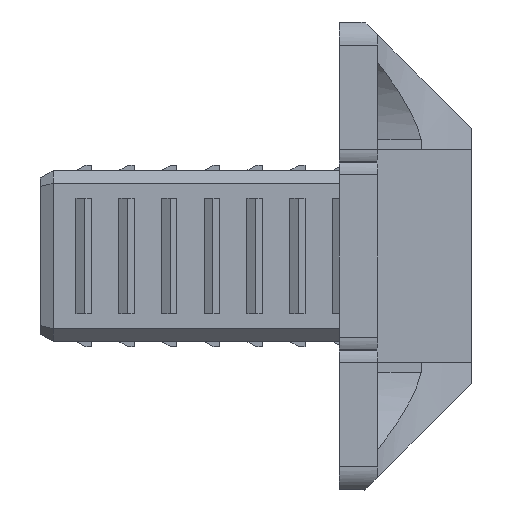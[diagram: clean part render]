
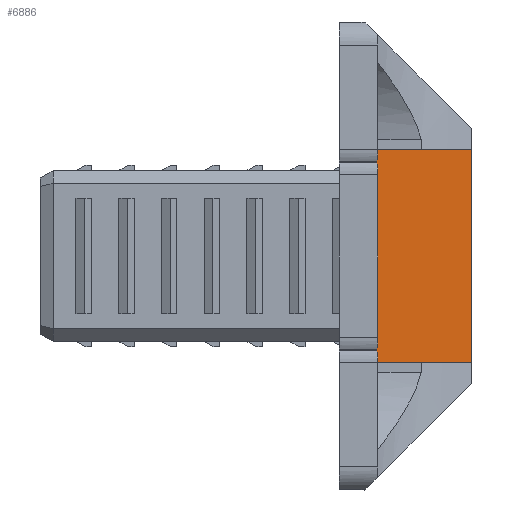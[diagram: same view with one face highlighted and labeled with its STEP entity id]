
A CAD part, left-side view. The second image highlights one B-rep face of the part: STEP entity #6886.
In plain terms, the highlighted planar face has unit normal (-1, 0, 0).
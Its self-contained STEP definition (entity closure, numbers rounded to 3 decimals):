
#152 = VECTOR ( 'NONE', #2071, 1000. ) ;
#614 = FACE_OUTER_BOUND ( 'NONE', #7169, .T. ) ;
#738 = PLANE ( 'NONE',  #8613 ) ;
#834 = DIRECTION ( 'NONE',  ( -1., 0., 0. ) ) ;
#952 = LINE ( 'NONE', #9284, #152 ) ;
#2071 = DIRECTION ( 'NONE',  ( 0., -1., 0. ) ) ;
#2214 = DIRECTION ( 'NONE',  ( 0., -1., 0. ) ) ;
#2221 = EDGE_CURVE ( 'NONE', #8151, #2963, #6289, .T. ) ;
#2602 = VERTEX_POINT ( 'NONE', #4988 ) ;
#2738 = CARTESIAN_POINT ( 'NONE',  ( -10.5, -8.5, -12.5 ) ) ;
#2963 = VERTEX_POINT ( 'NONE', #8372 ) ;
#3106 = EDGE_CURVE ( 'NONE', #8151, #2602, #952, .T. ) ;
#3500 = EDGE_CURVE ( 'NONE', #4671, #2963, #7284, .T. ) ;
#3599 = ORIENTED_EDGE ( 'NONE', *, *, #3106, .F. ) ;
#4405 = LINE ( 'NONE', #7148, #6275 ) ;
#4671 = VERTEX_POINT ( 'NONE', #2738 ) ;
#4733 = ORIENTED_EDGE ( 'NONE', *, *, #3500, .F. ) ;
#4988 = CARTESIAN_POINT ( 'NONE',  ( -10.5, -8.5, 12.5 ) ) ;
#6024 = CARTESIAN_POINT ( 'NONE',  ( -10.5, 3.998, 12.5 ) ) ;
#6169 = DIRECTION ( 'NONE',  ( 0., 1., 0. ) ) ;
#6275 = VECTOR ( 'NONE', #7064, 1000. ) ;
#6289 = LINE ( 'NONE', #7324, #7090 ) ;
#6486 = DIRECTION ( 'NONE',  ( 0., 0., -1. ) ) ;
#6593 = EDGE_CURVE ( 'NONE', #2602, #4671, #4405, .T. ) ;
#6731 = CARTESIAN_POINT ( 'NONE',  ( -10.5, 5.31, 30.459 ) ) ;
#6886 = ADVANCED_FACE ( 'NONE', ( #614 ), #738, .T. ) ;
#6927 = ORIENTED_EDGE ( 'NONE', *, *, #6593, .F. ) ;
#7064 = DIRECTION ( 'NONE',  ( 0., 0., -1. ) ) ;
#7090 = VECTOR ( 'NONE', #6486, 1000. ) ;
#7148 = CARTESIAN_POINT ( 'NONE',  ( -10.5, -8.5, 30.459 ) ) ;
#7169 = EDGE_LOOP ( 'NONE', ( #3599, #9383, #4733, #6927 ) ) ;
#7284 = LINE ( 'NONE', #7705, #8666 ) ;
#7324 = CARTESIAN_POINT ( 'NONE',  ( -10.5, 3.998, 111.895 ) ) ;
#7705 = CARTESIAN_POINT ( 'NONE',  ( -10.5, 5.31, -12.5 ) ) ;
#8151 = VERTEX_POINT ( 'NONE', #6024 ) ;
#8372 = CARTESIAN_POINT ( 'NONE',  ( -10.5, 3.998, -12.5 ) ) ;
#8613 = AXIS2_PLACEMENT_3D ( 'NONE', #6731, #834, #2214 ) ;
#8666 = VECTOR ( 'NONE', #6169, 1000. ) ;
#9284 = CARTESIAN_POINT ( 'NONE',  ( -10.5, 5.31, 12.5 ) ) ;
#9383 = ORIENTED_EDGE ( 'NONE', *, *, #2221, .T. ) ;
